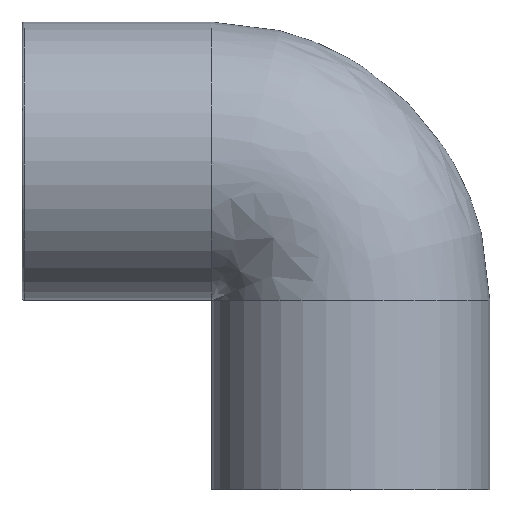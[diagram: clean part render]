
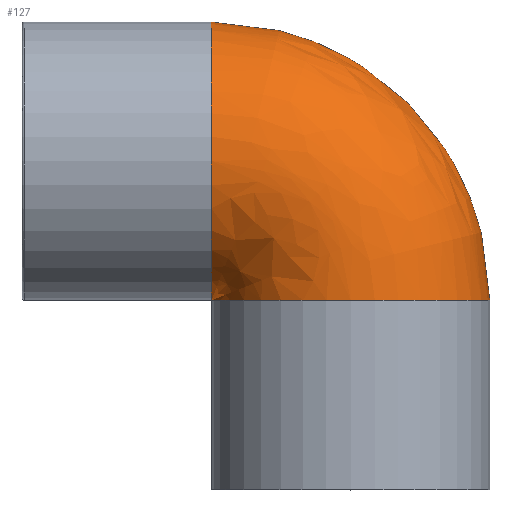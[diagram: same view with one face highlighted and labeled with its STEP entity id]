
A CAD part, top view. The second image highlights one B-rep face of the part: STEP entity #127.
In plain terms, the highlighted free-form (B-spline) face has degree [2, 2] with [9, 3] control points.
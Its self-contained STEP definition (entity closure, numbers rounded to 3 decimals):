
#15=(
BOUNDED_SURFACE()
B_SPLINE_SURFACE(2,2,((#218,#219,#220),(#221,#222,#223),(#224,#225,#226),
(#227,#228,#229),(#230,#231,#232),(#233,#234,#235),(#236,#237,#238),(#239,
#240,#241),(#242,#243,#244)),.UNSPECIFIED.,.T.,.F.,.F.)
B_SPLINE_SURFACE_WITH_KNOTS((3,2,2,2,3),(3,3),(-3.142,-1.571,
0.,1.571,3.142),(1.571,3.142),
 .UNSPECIFIED.)
GEOMETRIC_REPRESENTATION_ITEM()
RATIONAL_B_SPLINE_SURFACE(((1.,0.707,1.),(0.707,
0.5,0.707),(1.,0.707,1.),(0.707,0.5,
0.707),(1.,0.707,1.),(0.707,0.5,0.707),
(1.,0.707,1.),(0.707,0.5,0.707),(1.,
0.707,1.)))
REPRESENTATION_ITEM('')
SURFACE()
);
#39=FACE_OUTER_BOUND('',#55,.T.);
#55=EDGE_LOOP('',(#108,#109));
#72=CIRCLE('',#146,12.5);
#73=CIRCLE('',#147,12.5);
#83=VERTEX_POINT('',#245);
#93=EDGE_CURVE('',#83,#83,#72,.T.);
#94=EDGE_CURVE('',#83,#83,#73,.T.);
#108=ORIENTED_EDGE('',*,*,#93,.T.);
#109=ORIENTED_EDGE('',*,*,#94,.T.);
#127=ADVANCED_FACE('',(#39),#15,.F.);
#146=AXIS2_PLACEMENT_3D('',#246,#180,#181);
#147=AXIS2_PLACEMENT_3D('',#247,#182,#183);
#180=DIRECTION('center_axis',(1.,0.,0.));
#181=DIRECTION('ref_axis',(0.,0.,-1.));
#182=DIRECTION('center_axis',(0.,1.,0.));
#183=DIRECTION('ref_axis',(0.,0.,-1.));
#218=CARTESIAN_POINT('Ctrl Pts',(-12.5,-12.5,0.));
#219=CARTESIAN_POINT('Ctrl Pts',(-12.5,-12.5,0.));
#220=CARTESIAN_POINT('Ctrl Pts',(-12.5,-12.5,0.));
#221=CARTESIAN_POINT('Ctrl Pts',(-12.5,-12.5,12.5));
#222=CARTESIAN_POINT('Ctrl Pts',(-12.5,-12.5,12.5));
#223=CARTESIAN_POINT('Ctrl Pts',(-12.5,-12.5,12.5));
#224=CARTESIAN_POINT('Ctrl Pts',(-12.5,0.,12.5));
#225=CARTESIAN_POINT('Ctrl Pts',(0.,0.,
12.5));
#226=CARTESIAN_POINT('Ctrl Pts',(0.,-12.5,12.5));
#227=CARTESIAN_POINT('Ctrl Pts',(-12.5,12.5,12.5));
#228=CARTESIAN_POINT('Ctrl Pts',(12.5,12.5,12.5));
#229=CARTESIAN_POINT('Ctrl Pts',(12.5,-12.5,12.5));
#230=CARTESIAN_POINT('Ctrl Pts',(-12.5,12.5,0.));
#231=CARTESIAN_POINT('Ctrl Pts',(12.5,12.5,0.));
#232=CARTESIAN_POINT('Ctrl Pts',(12.5,-12.5,0.));
#233=CARTESIAN_POINT('Ctrl Pts',(-12.5,12.5,-12.5));
#234=CARTESIAN_POINT('Ctrl Pts',(12.5,12.5,-12.5));
#235=CARTESIAN_POINT('Ctrl Pts',(12.5,-12.5,-12.5));
#236=CARTESIAN_POINT('Ctrl Pts',(-12.5,0.,-12.5));
#237=CARTESIAN_POINT('Ctrl Pts',(0.,0.,
-12.5));
#238=CARTESIAN_POINT('Ctrl Pts',(0.,-12.5,-12.5));
#239=CARTESIAN_POINT('Ctrl Pts',(-12.5,-12.5,-12.5));
#240=CARTESIAN_POINT('Ctrl Pts',(-12.5,-12.5,-12.5));
#241=CARTESIAN_POINT('Ctrl Pts',(-12.5,-12.5,-12.5));
#242=CARTESIAN_POINT('Ctrl Pts',(-12.5,-12.5,0.));
#243=CARTESIAN_POINT('Ctrl Pts',(-12.5,-12.5,0.));
#244=CARTESIAN_POINT('Ctrl Pts',(-12.5,-12.5,0.));
#245=CARTESIAN_POINT('',(-12.5,-12.5,0.));
#246=CARTESIAN_POINT('Origin',(-12.5,0.,0.));
#247=CARTESIAN_POINT('Origin',(0.,-12.5,0.));
